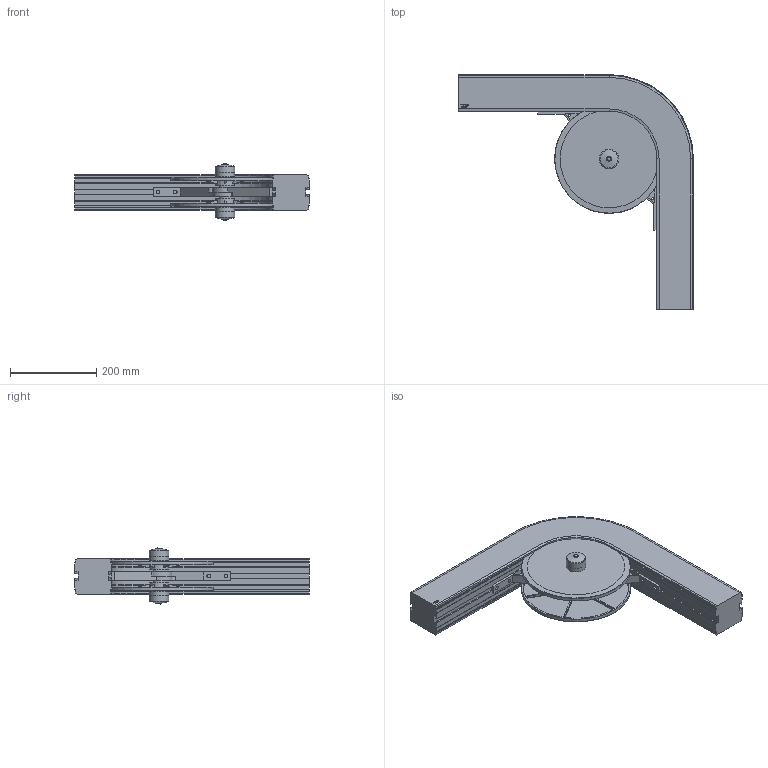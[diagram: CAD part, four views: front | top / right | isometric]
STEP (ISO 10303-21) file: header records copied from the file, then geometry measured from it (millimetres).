
FILE_DESCRIPTION((''),'2;1');
FILE_NAME('C:\Vault Klient\Projekt\Koncept konstruktion\Serie 830 Hjulkurva\830-5010.stp','2009-12-01T15:24:00',('Mathias'),(''),'Autodesk Inventor 2010','Autodesk Inventor 2010','');
FILE_SCHEMA(('CONFIG_CONTROL_DESIGN'));
Length unit declared in the file: millimetre
Products named in the file (5): 830-5010; 830-1000_05; 830-5026; 830-5027; FCWA-0413-025
Assembly tree (7 placements, depth 2):
  830-5010
    830-1000_05
    830-5026  x2
    830-5027  x2
    FCWA-0413-025  x2
Bounding box: 543 x 543 x 131.94 mm (x, y, z)
Volume: 6810871.9 mm3; surface area: 723586.1 mm2
Topology: 7 solids, 7 shells, 513 faces, 1344 edges, 868 vertices
Faces by surface type: plane 255, cylinder 120, bspline 88, cone 36, torus 10, sphere 4
Full cylindrical faces by diameter (mm): 6 x16, 29.5 x2, 30 x2, 34.5 x4, 41.3 x2, 45 x2, 50.3 x2, 252 x2
Entity records: 11810 total; most frequent: CARTESIAN_POINT 3615, ORIENTED_EDGE 1708, DIRECTION 1523, EDGE_CURVE 854, VERTEX_POINT 567, AXIS2_PLACEMENT_3D 511, VECTOR 501, LINE 501
